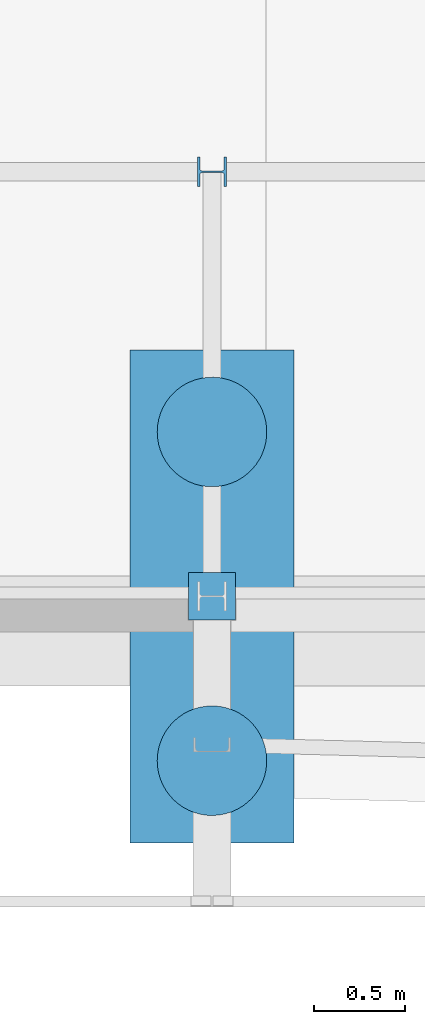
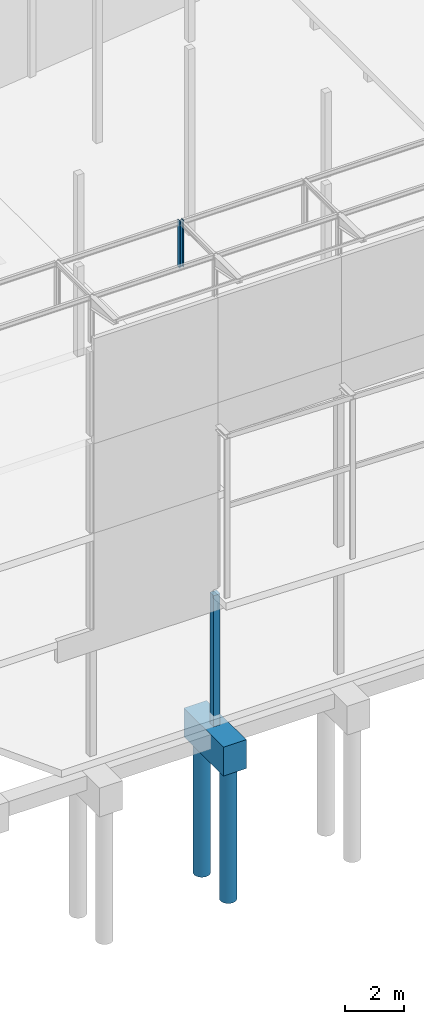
# One storey, part 3 of 82: 5 columns.
"""IFC2X3 building model written with IfcOpenShell, lengths in millimetres."""

from ifc_helpers import new_model, si_unit, frame, frame_2d, origin_with_axes, place, context, subcontext, project, spatial, rectangle, circle, i_section, extrude, material, type_object, element, save


model = new_model("IFC2X3")

# Units and contexts
model_context = context("Model", 3, precision=1e-05, world=origin_with_axes())
body_context = subcontext(model_context, "Body", "Model", "MODEL_VIEW")
ifc_project = project(units=[si_unit("LENGTHUNIT", "METRE", prefix="MILLI"), si_unit("AREAUNIT", "SQUARE_METRE"), si_unit("VOLUMEUNIT", "CUBIC_METRE"), si_unit("MASSUNIT", "GRAM", prefix="KILO"), si_unit("TIMEUNIT", "SECOND"), si_unit("PLANEANGLEUNIT", "RADIAN"), si_unit("SOLIDANGLEUNIT", "STERADIAN"), si_unit("THERMODYNAMICTEMPERATUREUNIT", "DEGREE_CELSIUS"), si_unit("LUMINOUSINTENSITYUNIT", "LUMEN")], contexts=[model_context])

# Site, building, storey
site_placement = place(None, origin_with_axes())
site = spatial("IfcSite", under=ifc_project, at=site_placement, Name="Undefined", CompositionType="ELEMENT")
building_placement = place(site_placement, origin_with_axes())
building = spatial("IfcBuilding", under=site, at=building_placement, Name="Undefined", CompositionType="ELEMENT")
storey_placement = place(building_placement, origin_with_axes())
storey = spatial("IfcBuildingStorey", under=building, at=storey_placement, Name="Undefined", CompositionType="ELEMENT", Elevation=0.0)

# Columns
ifc_material_1 = material(Name="CONCRETE/C25/30")
column_type_1 = type_object("IfcColumnType", Name="260*260", PredefinedType="NOTDEFINED")
column_1_placement = place(storey_placement, frame((9749.99999999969, 1.34789672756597e-08, -450.0), z_axis=(0.0, 0.0, 1.0), x_axis=(1.0, 0.0, 0.0)))
element("IfcColumn", 1, at=column_1_placement, inside=storey, type_object=column_type_1, material=ifc_material_1, Name="POTEAU", ObjectType="260*260", context=body_context, shape_type="SweptSolid", body=[
    extrude(rectangle(XDim=260.0, YDim=260.0, at=frame_2d((5.17284206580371e-08, 4.49290382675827e-10), x_axis=(1.0, 0.0))), frame((0.0, 0.0, 5450.00000000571), z_axis=(0.0, -6.50000002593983e-08, -0.999999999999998), x_axis=(-1.0, 0.0, 0.0)), (0.0, 0.0, 1.0), 5450.0),
])
ifc_material_2 = material(Name="STEEL/S275JR")
column_type_2 = type_object("IfcColumnType", Name="HEB160", PredefinedType="NOTDEFINED")
column_2_placement = place(storey_placement, frame((9750.00000109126, 2324.99999967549, 17160.0), z_axis=(0.0, 0.0, 1.0), x_axis=(1.0, 0.0, 0.0)))
element("IfcColumn", 2, at=column_2_placement, inside=storey, type_object=column_type_2, material=ifc_material_2, Name="POTEAU", ObjectType="HEB160", context=body_context, shape_type="SweptSolid", body=[
    extrude(i_section(OverallWidth=160.0, OverallDepth=160.0, WebThickness=8.0, FlangeThickness=13.0, FilletRadius=15.0, at=frame_2d((5.17284206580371e-08, 4.49290382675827e-10), x_axis=(1.0, 0.0))), frame((0.0, 0.0, 1965.0), z_axis=(0.0, -6.50000002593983e-08, -0.999999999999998), x_axis=(-2.77555756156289e-17, -1.0, 0.0)), (0.0, 0.0, 1.0), 1965.0),
])
ifc_material_3 = material(Name="CONCRETE/C30/37")
column_type_3 = type_object("IfcColumnType", Name="2700*900", PredefinedType="NOTDEFINED")
column_3_placement = place(storey_placement, frame((9750.00000006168, -4.6449912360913e-08, -1650.0), z_axis=(0.0, 0.0, 1.0), x_axis=(1.0, 0.0, 0.0)))
element("IfcColumn", 3, at=column_3_placement, inside=storey, type_object=column_type_3, material=ifc_material_3, Name="SEMELLE", ObjectType="2700*900", context=body_context, shape_type="SweptSolid", body=[
    extrude(rectangle(XDim=900.0, YDim=2700.0, at=frame_2d((5.17284206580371e-08, 4.49290382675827e-10), x_axis=(1.0, 0.0))), frame((0.0, 0.0, 1200.0), z_axis=(0.0, -6.50000002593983e-08, -0.999999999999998), x_axis=(-1.0, 0.0, 0.0)), (0.0, 0.0, 1.0), 1200.0),
])
column_type_4 = type_object("IfcColumnType", Name="D600", PredefinedType="NOTDEFINED")
for number, where, z_axis, x_axis in (
    (4, (9750.00000003, -900.000000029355, -7175.0), (0.0, 0.0, 1.0), (1.0, 0.0, 0.0)),
    (5, (9750.0000000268, 899.999999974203, -7175.0), (0.0, 0.0, 1.0), (1.0, 0.0, 0.0)),
):
    element("IfcColumn", number, at=place(storey_placement, frame(where, z_axis=z_axis, x_axis=x_axis)), inside=storey, type_object=column_type_4, material=ifc_material_1, Name="PIEU", ObjectType="D600", context=body_context, shape_type="SweptSolid", body=[
        extrude(circle(Radius=300.0, at=frame_2d((5.17284206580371e-08, 4.49290382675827e-10), x_axis=(1.0, 0.0))), frame((0.0, 0.0, 5750.0), z_axis=(0.0, -6.50000002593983e-08, -0.999999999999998), x_axis=(-1.0, 0.0, 0.0)), (0.0, 0.0, 1.0), 5750.0),
    ])

save(model, "model.ifc")
